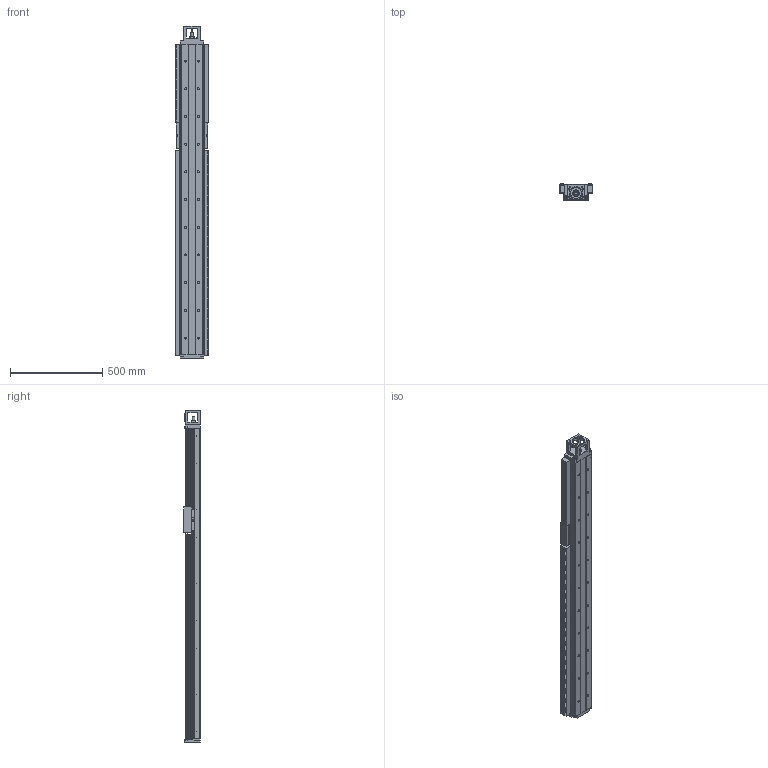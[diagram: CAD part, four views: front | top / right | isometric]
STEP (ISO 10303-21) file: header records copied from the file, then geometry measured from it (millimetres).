
FILE_DESCRIPTION(/* description */ (''),/* implementation_level */ '2;1');
FILE_NAME(/* name */ 'TKK130-1680A1F0B_stp.stp',/* time_stamp */ '2017-08-18T10:42:45+08:00',/* author */ (''),/* organization */ (''),/* preprocessor_version */ 'ST-DEVELOPER v15',/* originating_system */ 'SIEMENS PLM Software NX 8.5',/* authorisation */ '');
FILE_SCHEMA (('AUTOMOTIVE_DESIGN { 1 0 10303 214 3 1 1 1 }'));
Products named in the file (3): 022; 011; TKK130-1680A1F0B_stp
Assembly tree (2 placements, depth 2):
  TKK130-1680A1F0B_stp
    011
    022
Bounding box: 184 x 92 x 1798 mm (x, y, z)
Volume: 18200014.9 mm3; surface area: 2099105.6 mm2
Topology: 5 solids, 26 shells, 3405 faces, 8271 edges, 4959 vertices
Faces by surface type: plane 2924, cylinder 330, cone 111, extrusion 33, bspline 6, torus 1
Full cylindrical faces by diameter (mm): 2.1 x18, 2.5 x8, 3.3 x37, 4.5 x20, 5 x23, 6.6 x10, 6.8 x12, 7 x2, 8 x16, 8.5 x4, 9 x8, 11 x30, 12 x4, 15 x1, 16.3 x1, 17 x24, 17.5 x4, 25 x1, 35 x2, 40 x3, 60.03 x1, 70.03 x1
Entity records: 95231 total; most frequent: CARTESIAN_POINT 17724, ORIENTED_EDGE 15438, DIRECTION 15065, EDGE_CURVE 7719, VECTOR 6883, LINE 6850, VERTEX_POINT 4834, AXIS2_PLACEMENT_3D 4091
